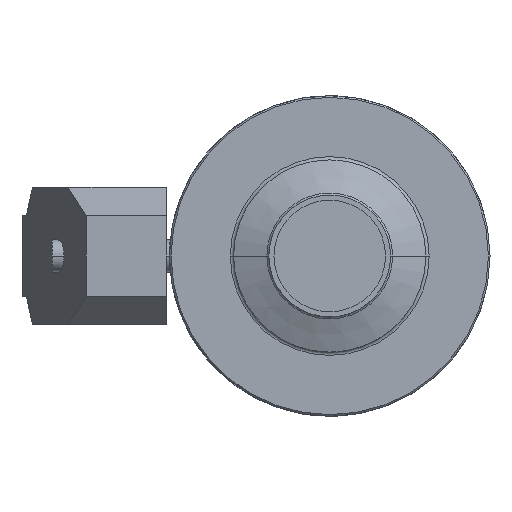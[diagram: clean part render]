
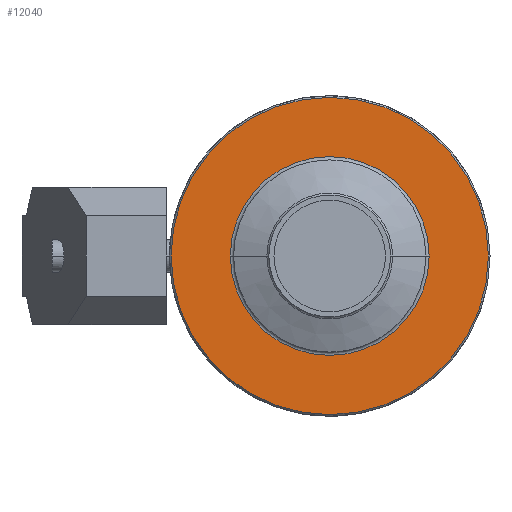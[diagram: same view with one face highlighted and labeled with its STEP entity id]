
A CAD part, left-side view. The second image highlights one B-rep face of the part: STEP entity #12040.
In plain terms, the highlighted planar face has unit normal (-1, 0, 0).
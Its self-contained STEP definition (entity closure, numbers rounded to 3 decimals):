
#8800=CARTESIAN_POINT('',(24.717,-21.688,0.));
#8810=VERTEX_POINT('',#8800);
#8840=CARTESIAN_POINT('',(24.717,9.312,0.));
#8850=DIRECTION('',(1.,0.,0.));
#8860=DIRECTION('',(0.,1.,0.));
#8870=AXIS2_PLACEMENT_3D('',#8840,#8850,#8860);
#8880=CIRCLE('',#8870,31.);
#8890=CARTESIAN_POINT('',(24.717,40.312,0.));
#8900=VERTEX_POINT('',#8890);
#8910=EDGE_CURVE('',#8810,#8900,#8880,.T.);
#11660=CARTESIAN_POINT('',(24.717,-40.188,0.));
#11670=VERTEX_POINT('',#11660);
#11750=CARTESIAN_POINT('',(24.717,58.812,
0.));
#11760=VERTEX_POINT('',#11750);
#11790=CARTESIAN_POINT('',(24.717,9.312,0.));
#11800=DIRECTION('',(1.,0.,0.));
#11810=DIRECTION('',(0.,1.,0.));
#11820=AXIS2_PLACEMENT_3D('',#11790,#11800,#11810);
#11830=CIRCLE('',#11820,49.5);
#11840=EDGE_CURVE('',#11670,#11760,#11830,.T.);
#11890=CARTESIAN_POINT('',(24.717,56.712,0.));
#11900=DIRECTION('',(-1.,0.,0.));
#11910=DIRECTION('',(0.,1.,0.));
#11920=AXIS2_PLACEMENT_3D('',#11890,#11900,#11910);
#11930=PLANE('',#11920);
#11940=EDGE_CURVE('',#8900,#8810,#8880,.T.);
#11950=ORIENTED_EDGE('',*,*,#11940,.T.);
#11960=ORIENTED_EDGE('',*,*,#8910,.T.);
#11970=EDGE_LOOP('',(#11960,#11950));
#11980=FACE_BOUND('',#11970,.T.);
#11990=EDGE_CURVE('',#11760,#11670,#11830,.T.);
#12000=ORIENTED_EDGE('',*,*,#11990,.F.);
#12010=ORIENTED_EDGE('',*,*,#11840,.F.);
#12020=EDGE_LOOP('',(#12010,#12000));
#12030=FACE_OUTER_BOUND('',#12020,.T.);
#12040=ADVANCED_FACE('',(#11980,#12030),#11930,.T.);
